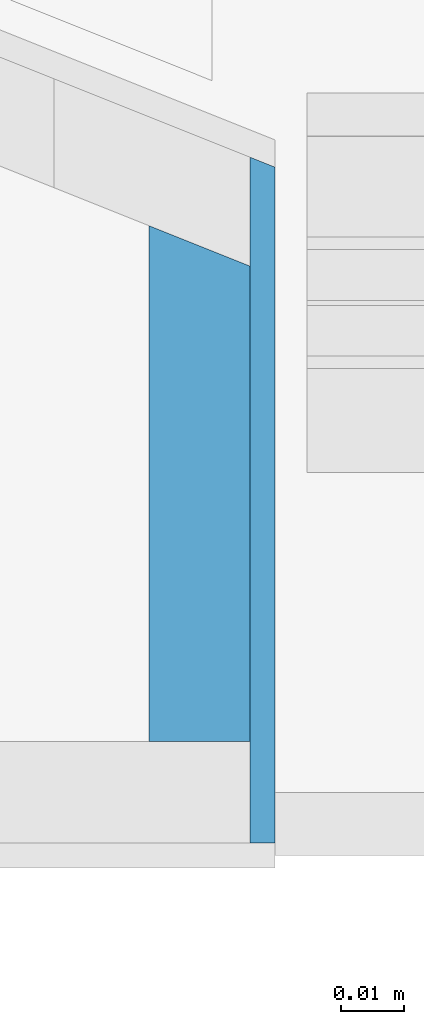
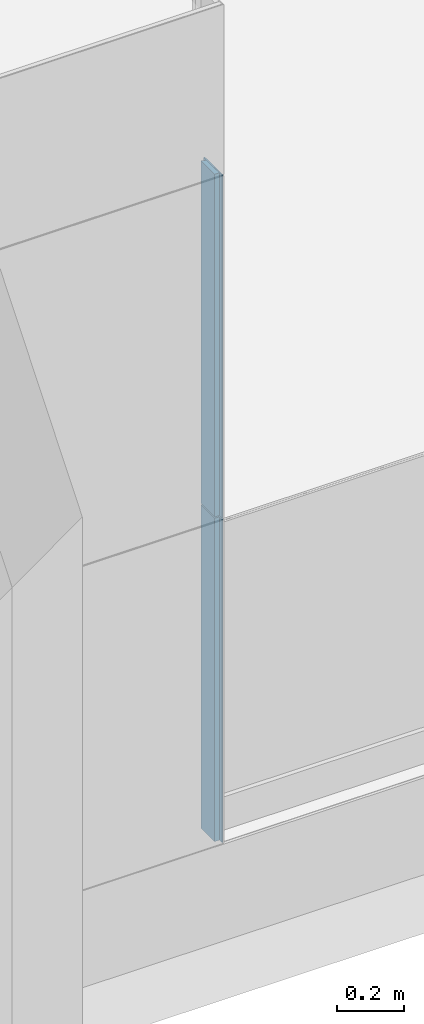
# One storey, part 10 of 57: 4 building element parts, 1 element without a shape of its own.
"""IFC2X3 building model written with IfcOpenShell, lengths in millimetres."""

from ifc_helpers import new_model, entity, si_unit, converted_unit, direction, frame, origin, place, context, subcontext, project, spatial, polyline, outline, extrude, material, type_object, element, aggregate, save


model = new_model("IFC2X3")

# Units and contexts
model_context = context("Model", 3, precision=0.01, world=origin(), true_north=direction((6.123233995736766e-17, 1.0)))
plan_context = context("Plan", 3, precision=0.01, world=origin(), true_north=direction((6.123233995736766e-17, 1.0)))
body_context = subcontext(model_context, "Body", "Model", "MODEL_VIEW")
ifc_project = project(units=[si_unit("LENGTHUNIT", "METRE", prefix="MILLI"), converted_unit("PLANEANGLEUNIT", "DEGREE", entity("IfcPlaneAngleMeasure", 0.017453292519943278), si_unit("PLANEANGLEUNIT", "RADIAN"), dimensions=[0, 0, 0, 0, 0, 0, 0]), si_unit("AREAUNIT", "SQUARE_METRE")], contexts=[model_context, plan_context])

# Site, building, storey
site_placement = place(None, origin())
site = spatial("IfcSite", under=ifc_project, at=site_placement, Name="Default", CompositionType="ELEMENT")
building_placement = place(site_placement, origin())
building = spatial("IfcBuilding", under=site, at=building_placement, CompositionType="ELEMENT")
storey_placement = place(building_placement, frame((0.0, 0.0, 12811.000000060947)))
storey = spatial("IfcBuildingStorey", under=building, at=storey_placement, Name="5K", CompositionType="ELEMENT", Elevation=12811.000000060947)

# Wall, building element parts
wall_type = type_object("IfcWallType", Name="Basic Wall:VS-komposiit", PredefinedType="STANDARD")
wall_placement = place(storey_placement, frame((13265.061891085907, 469.60283704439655, -20.0), z_axis=(0.0, 0.0, 1.0), x_axis=(0.0, -1.0, 0.0)))
wall = element("IfcWall", 1, at=wall_placement, inside=storey, type_object=wall_type, Name="Basic Wall:VS-komposiit", ObjectType="Basic Wall:VS-komposiit")
ifc_material_1 = material(Name="_K. Õhk. Roov. Fassaadikatte alusroov. Horisontaalne. 25 mm")
building_element_part_1_placement = place(wall_placement, origin())
building_element_part_1 = element("IfcBuildingElementPart", 2, at=building_element_part_1_placement, material=ifc_material_1, Name="Part", context=body_context, shape_type="SweptSolid", body=[
    extrude(outline(polyline([(-42.39992607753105, -8.0), (39.199499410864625, -8.0), (39.199499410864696, 8.0), (-35.99907274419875, 8.0), (-42.39992607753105, -8.0)])), frame((42.39992607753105, -2.0, 1175.0)), (0.0, 0.0, 1.0), 1240.0000000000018),
])
building_element_part_2_placement = place(wall_placement, origin())
building_element_part_2 = element("IfcBuildingElementPart", 3, at=building_element_part_2_placement, material=ifc_material_1, Name="Part", context=body_context, shape_type="SweptSolid", body=[
    extrude(outline(polyline([(-42.39992607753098, -8.0), (39.19949941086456, -8.0), (39.199499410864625, 8.0), (-35.99907274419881, 8.0), (-42.39992607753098, -8.0)])), frame((42.39992607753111, -2.0, 0.0)), (0.0, 0.0, 1.0), 1170.0000000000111),
])
ifc_material_2 = material(Name="_K. Välisviimistlus. Alumiinium-komposiitplaat")
building_element_part_3_placement = place(wall_placement, origin())
building_element_part_3 = element("IfcBuildingElementPart", 4, at=building_element_part_3_placement, material=ifc_material_2, Name="Part", context=body_context, shape_type="SweptSolid", body=[
    extrude(outline(polyline([(-54.615761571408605, -2.0), (53.8156549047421, -2.0), (53.8156549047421, 2.0), (-53.0155482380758, 2.0), (-54.615761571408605, -2.0)])), frame((43.783770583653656, 8.0, 1175.0)), (0.0, 0.0, 1.0), 1240.0000000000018),
])
building_element_part_4_placement = place(wall_placement, origin())
building_element_part_4 = element("IfcBuildingElementPart", 5, at=building_element_part_4_placement, material=ifc_material_2, Name="Part", context=body_context, shape_type="SweptSolid", body=[
    extrude(outline(polyline([(-54.615761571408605, -2.0), (53.8156549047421, -2.0), (53.8156549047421, 2.0), (-53.0155482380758, 2.0), (-54.615761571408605, -2.0)])), frame((43.783770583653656, 8.0, 0.0)), (0.0, 0.0, 1.0), 1170.0000000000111),
])
aggregate(wall, [building_element_part_1, building_element_part_2, building_element_part_3, building_element_part_4])

save(model, "model.ifc")
